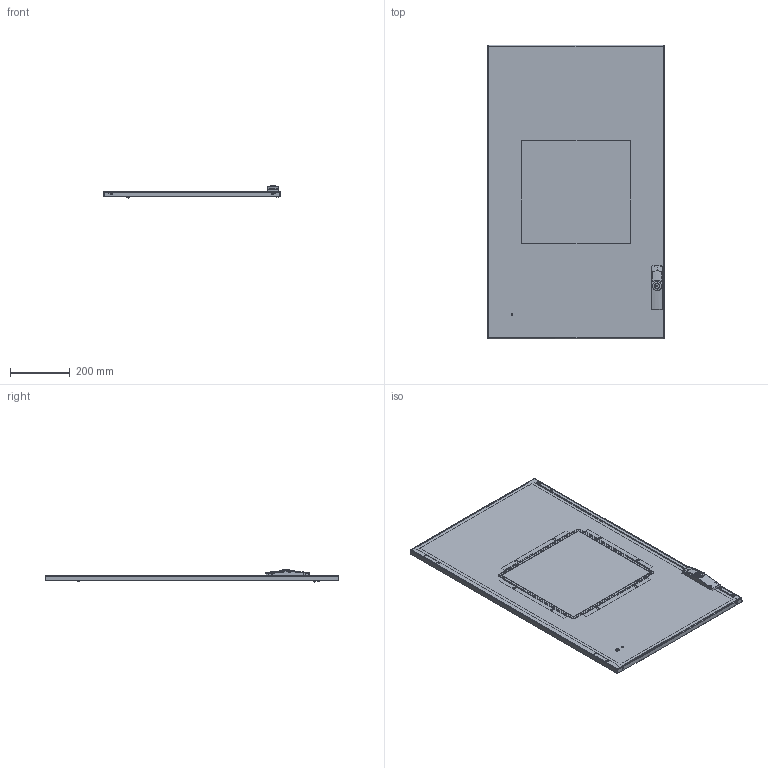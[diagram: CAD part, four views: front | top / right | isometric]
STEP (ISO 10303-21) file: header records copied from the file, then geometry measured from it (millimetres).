
FILE_DESCRIPTION (( 'STEP AP203' ), '1' );
FILE_NAME ('98380.step', '2013-04-04T08:39:16', ( '' ), ( '' ), 'SwSTEP 2.0', 'SolidWorks 2010', '' );
FILE_SCHEMA (( 'CONFIG_CONTROL_DESIGN' ));
Length unit declared in the file: inch
Products named in the file (30): 60127101_60127101; 89060665_FIP GASKET; 89060666_FIP GASKET; 60127424_60127424; 60127212; 11359496; 60127138_60127138; 87576035_87576035; 60127139_60127139; 35384008_35384008; 87562005; 98380; 11458962; 11458964; 60127172_60127172; 60100041_60100041; 87931527_87931527; 87931368_SLEEVE; 87798945_60127373; 60127182_60127182; 60127208; 60127207; 11359490_11359490; 60127175_60127175; 60127216_60127216; 60127140_60127140; 11158132_THIKNESS .155 FIXED; 60127277_60127277; 51232001_51232001; 60127173_60127173
Assembly tree (40 placements, depth 4):
  98380
    60127424_60127424
      60127212
      60127182_60127182
      60127208
      87798945_60127373
      60127207
    60127277_60127277  x2
      51232001_51232001
      60127173_60127173
    87562005  x4
    11458962
      60127101_60127101  x2
      11458964
      89060666_FIP GASKET
      60100041_60100041
        87931527_87931527
        87931368_SLEEVE
      89060665_FIP GASKET
      60127172_60127172  x2
    11359496
      11158132_THIKNESS .155 FIXED  x4
      60127216_60127216  x2
        87576035_87576035
        60127140_60127140
        60127138_60127138
      60127139_60127139  x2
      60127175_60127175
      11359490_11359490
    35384008_35384008
Bounding box: 591.79 x 985.7 x 41.43 mm (x, y, z)
Volume: 1843384.5 mm3; surface area: 1599938.6 mm2
Topology: 37 solids, 37 shells, 1631 faces, 4072 edges, 2525 vertices
Faces by surface type: plane 699, cylinder 568, torus 125, bspline 123, cone 101, sphere 15
Entity records: 41606 total; most frequent: CARTESIAN_POINT 10866, ORIENTED_EDGE 5856, DIRECTION 5473, EDGE_CURVE 2928, AXIS2_PLACEMENT_3D 1960, VERTEX_POINT 1842, VECTOR 1553, LINE 1553
